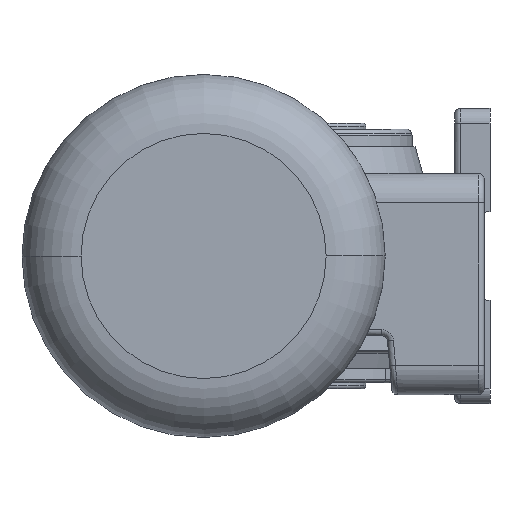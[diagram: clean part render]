
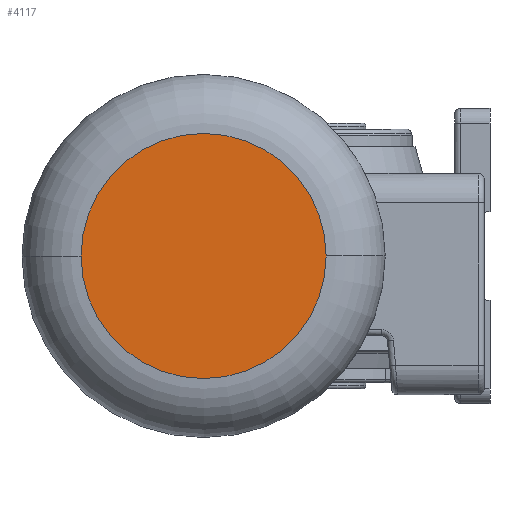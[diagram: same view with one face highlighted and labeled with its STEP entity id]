
A CAD part, left-side view. The second image highlights one B-rep face of the part: STEP entity #4117.
In plain terms, the highlighted planar face has unit normal (-1, 0, 0).
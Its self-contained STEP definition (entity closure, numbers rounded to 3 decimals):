
#2490 = EDGE_CURVE ( 'NONE', #7489, #18055, #19582, .T. ) ;
#3389 = CARTESIAN_POINT ( 'NONE',  ( -409.993, 64.441, 0. ) ) ;
#3973 = DIRECTION ( 'NONE',  ( 0., -1., 0. ) ) ;
#3978 = CARTESIAN_POINT ( 'NONE',  ( -409.993, 105.941, 0. ) ) ;
#4117 = ADVANCED_FACE ( 'NONE', ( #17131 ), #10298, .F. ) ;
#4674 = CARTESIAN_POINT ( 'NONE',  ( -409.993, 22.941, 0. ) ) ;
#5161 = CARTESIAN_POINT ( 'NONE',  ( -409.993, 64.441, 0. ) ) ;
#7489 = VERTEX_POINT ( 'NONE', #3978 ) ;
#7988 = ORIENTED_EDGE ( 'NONE', *, *, #14021, .T. ) ;
#8832 = AXIS2_PLACEMENT_3D ( 'NONE', #5161, #10411, #10668 ) ;
#10298 = PLANE ( 'NONE',  #8832 ) ;
#10411 = DIRECTION ( 'NONE',  ( 1., 0., 0. ) ) ;
#10502 = DIRECTION ( 'NONE',  ( -1., 0., 0. ) ) ;
#10668 = DIRECTION ( 'NONE',  ( 0., -1., 0. ) ) ;
#10886 = DIRECTION ( 'NONE',  ( -1., 0., 0. ) ) ;
#11116 = CARTESIAN_POINT ( 'NONE',  ( -409.993, 64.441, 0. ) ) ;
#14021 = EDGE_CURVE ( 'NONE', #18055, #7489, #22511, .T. ) ;
#16129 = AXIS2_PLACEMENT_3D ( 'NONE', #11116, #10886, #19595 ) ;
#17131 = FACE_OUTER_BOUND ( 'NONE', #22859, .T. ) ;
#17975 = AXIS2_PLACEMENT_3D ( 'NONE', #3389, #10502, #3973 ) ;
#18055 = VERTEX_POINT ( 'NONE', #4674 ) ;
#19582 = CIRCLE ( 'NONE', #16129, 41.5 ) ;
#19595 = DIRECTION ( 'NONE',  ( 0., -1., 0. ) ) ;
#21016 = ORIENTED_EDGE ( 'NONE', *, *, #2490, .T. ) ;
#22511 = CIRCLE ( 'NONE', #17975, 41.5 ) ;
#22859 = EDGE_LOOP ( 'NONE', ( #7988, #21016 ) ) ;
